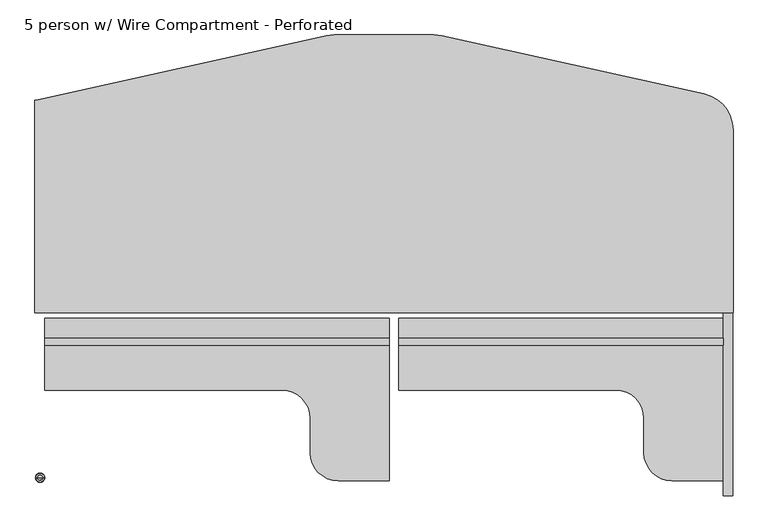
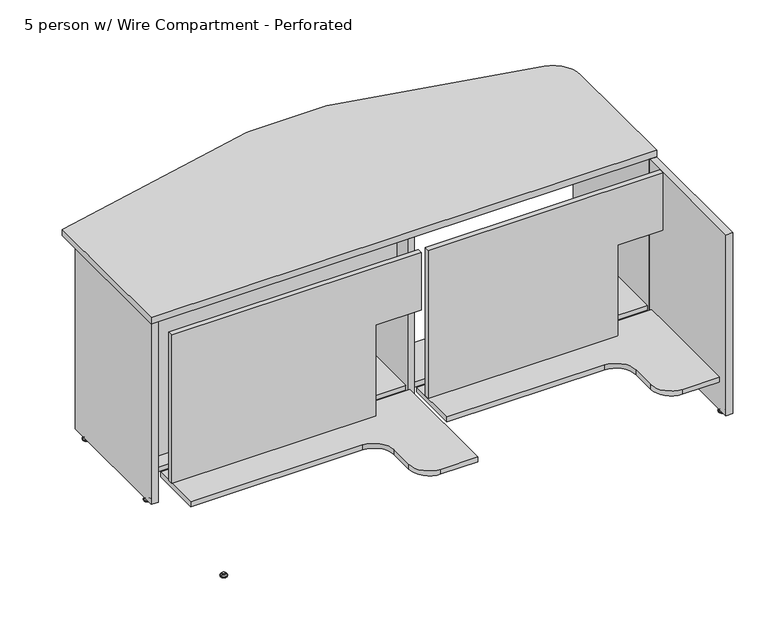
"""IFC4 building model written with IfcOpenShell, lengths in millimetres: furniture geometry, Nova Solutions - Collaboration Table - Boat_4-6 person : 5 person w/ Wire Compartment - Perforated."""

from ifc_helpers import new_model, si_unit, point, frame, frame_2d, origin, place, context, project, spatial, polyline, circle_curve, ellipse_curve, trimmed, segment, composite_curve, outline, extrude, source, transform, mapped, element, save
from ifc_brep_helpers import plane_surface, cylinder_surface, revolved_surface, advanced_brep


def furniture_5_person_w_wire_compartment_perforated_3ae8978b(model_context):
    return source(origin(), model_context, "Body", "SolidModel", [
        extrude(outline(composite_curve([segment(polyline([(897.15, 457.2625), (897.15, 14.1), (12.85, 14.1), (12.85, 210.4), (604.95, 210.4)]), True, "CONTINUOUS"), segment(trimmed(circle_curve(frame_2d((604.95, 286.6)), 76.2), [point((604.95, 210.4))], [point((681.15, 286.6))], True, "CARTESIAN"), True, "CONTINUOUS"), segment(polyline([(681.15, 286.6), (681.15, 381.0625)]), True, "CONTINUOUS"), segment(trimmed(circle_curve(frame_2d((757.35, 381.0625)), 76.2), [point((681.15, 381.0625))], [point((757.35, 457.2625))], False, "CARTESIAN"), True, "CONTINUOUS"), segment(polyline([(757.35, 457.2625), (897.15, 457.2625)]), True, "CONTINUOUS")], self_intersect=False)), frame((0.0, 0.0, 126.3), z_axis=(0.0, 0.0, 1.0), x_axis=(1.0, 0.0, 0.0)), (0.0, 0.0, 1.0), 19.2),
        advanced_brep(
        [(916.6776506, 448.9859375, 11.1125), (910.0, 448.9859375, 11.1125), (903.3223494, 448.9859375, 11.1125), (916.6776506, 448.9859375, 9.525), (903.3223494, 448.9859375, 9.525), (921.8855135, 448.9859375, 4.7748687), (898.1144865, 448.9859375, 4.7748687), (922.7466506, 448.9859375, 3.989419), (897.2533494, 448.9859375, 3.989419), (922.7466506, 448.9859375, 3.175), (897.2533494, 448.9859375, 3.175), (921.8959119, 448.9859375, 0.0), (898.1040881, 448.9859375, 0.0), (910.0, 448.9859375, 0.0)],
        [
            (0, 1),
            (1, 2),
            (2, 0, circle_curve(frame((910.0, 448.9859375, 11.1125), z_axis=(0.0, 0.0, 1.0), x_axis=(-1.0, 0.0, 0.0)), 6.6776506)),
            (0, 2, circle_curve(frame((910.0, 448.9859375, 11.1125), z_axis=(0.0, 0.0, 1.0), x_axis=(-1.0, 0.0, 0.0)), 6.6776506)),
            (3, 0),
            (2, 4),
            (4, 3, circle_curve(frame((910.0, 448.9859375, 9.525), z_axis=(0.0, 0.0, 1.0), x_axis=(-1.0, 0.0, 0.0)), 6.6776506)),
            (3, 4, circle_curve(frame((910.0, 448.9859375, 9.525), z_axis=(0.0, 0.0, 1.0), x_axis=(-1.0, 0.0, 0.0)), 6.6776506)),
            (5, 3, circle_curve(frame((922.9320627, 448.9859375, 11.1521822), z_axis=(0.0, 1.0, 0.0), x_axis=(-1.0, 0.0, 0.0)), 6.462615)),
            (4, 6, circle_curve(frame((897.0679373, 448.9859375, 11.1521822), z_axis=(0.0, 1.0, 0.0), x_axis=(1.0, 0.0, 0.0)), 6.462615)),
            (6, 5, circle_curve(frame((910.0, 448.9859375, 4.7748687), z_axis=(0.0, 0.0, 1.0), x_axis=(-1.0, 0.0, 0.0)), 11.8855135)),
            (5, 6, circle_curve(frame((910.0, 448.9859375, 4.7748687), z_axis=(0.0, 0.0, 1.0), x_axis=(-1.0, 0.0, 0.0)), 11.8855135)),
            (7, 5, circle_curve(frame((921.7124632, 448.9859375, 3.7203591), z_axis=(0.0, -1.0, 0.0), x_axis=(-1.0, 0.0, 0.0)), 1.0686145)),
            (6, 8, circle_curve(frame((898.2875368, 448.9859375, 3.7203591), z_axis=(0.0, -1.0, 0.0), x_axis=(1.0, 0.0, 0.0)), 1.0686145)),
            (8, 7, circle_curve(frame((910.0, 448.9859375, 3.989419), z_axis=(0.0, 0.0, 1.0), x_axis=(-1.0, 0.0, 0.0)), 12.7466506)),
            (7, 8, circle_curve(frame((910.0, 448.9859375, 3.989419), z_axis=(0.0, 0.0, 1.0), x_axis=(-1.0, 0.0, 0.0)), 12.7466506)),
            (9, 7),
            (8, 10),
            (10, 9, circle_curve(frame((910.0, 448.9859375, 3.175), z_axis=(0.0, 0.0, 1.0), x_axis=(-1.0, 0.0, 0.0)), 12.7466506)),
            (9, 10, circle_curve(frame((910.0, 448.9859375, 3.175), z_axis=(0.0, 0.0, 1.0), x_axis=(-1.0, 0.0, 0.0)), 12.7466506)),
            (11, 9),
            (10, 12),
            (12, 11, circle_curve(frame((910.0, 448.9859375, 0.0), z_axis=(0.0, 0.0, 1.0), x_axis=(-1.0, 0.0, 0.0)), 11.8959119)),
            (11, 12, circle_curve(frame((910.0, 448.9859375, 0.0), z_axis=(0.0, 0.0, 1.0), x_axis=(-1.0, 0.0, 0.0)), 11.8959119)),
            (13, 11),
            (12, 13),
        ],
        [
            plane_surface(frame((910.0, 448.9859375, 11.1125), z_axis=(0.0, 0.0, 1.0), x_axis=(-1.0, 0.0, 0.0))),
            cylinder_surface(frame((910.0, 448.9859375, 43.2095994), z_axis=(0.0, 0.0, -1.0), x_axis=(-1.0, 0.0, 0.0)), 6.6776506),
            revolved_surface(trimmed(ellipse_curve(frame((897.0679373, 448.9859375, 11.1521822), z_axis=(0.0, 1.0, 0.0), x_axis=(1.0, 0.0, 0.0)), 6.462615, 6.462615), [point((903.3223494, 448.9859375, 9.525))], [point((898.1144865, 448.9859375, 4.7748687))], True, "CARTESIAN"), (910.0, 448.9859375, 43.2095994), (0.0, 0.0, -1.0)),
            revolved_surface(trimmed(ellipse_curve(frame((898.2875368, 448.9859375, 3.7203591), z_axis=(0.0, -1.0, 0.0), x_axis=(1.0, 0.0, 0.0)), 1.0686145, 1.0686145), [point((898.1144865, 448.9859375, 4.7748687))], [point((897.2533494, 448.9859375, 3.989419))], True, "CARTESIAN"), (910.0, 448.9859375, 43.2095994), (0.0, 0.0, -1.0)),
            cylinder_surface(frame((910.0, 448.9859375, 43.2095994), z_axis=(0.0, 0.0, -1.0), x_axis=(-1.0, 0.0, 0.0)), 12.7466506),
            revolved_surface(polyline([(897.2533494, 448.9859375, 3.175), (898.1040881, 448.9859375, 0.0)]), (910.0, 448.9859375, 43.2095994), (0.0, 0.0, -1.0)),
            plane_surface(frame((910.0, 448.9859375, 0.0), z_axis=(0.0, 0.0, -1.0), x_axis=(-1.0, 0.0, 0.0))),
        ],
        [
            (0, [[1, 2, 3]]),
            (0, [[-2, -1, 4]]),
            (1, [[5, -3, 6, 7]]),
            (1, [[-6, -4, -5, 8]]),
            (2, [[9, -7, 10, 11]]),
            (2, [[-10, -8, -9, 12]]),
            (3, [[13, -11, 14, 15]]),
            (3, [[-14, -12, -13, 16]]),
            (4, [[17, -15, 18, 19]]),
            (4, [[-18, -16, -17, 20]]),
            (5, [[21, -19, 22, 23]]),
            (5, [[-22, -20, -21, 24]]),
            (6, [[25, -23, 26]]),
            (6, [[-26, -24, -25]]),
        ],
    ),
        advanced_brep(
        [(916.6776506, 50.4140625, 11.1125), (910.0, 50.4140625, 11.1125), (903.3223494, 50.4140625, 11.1125), (916.6776506, 50.4140625, 9.525), (903.3223494, 50.4140625, 9.525), (921.8855135, 50.4140625, 4.7748687), (898.1144865, 50.4140625, 4.7748687), (922.7466506, 50.4140625, 3.989419), (897.2533494, 50.4140625, 3.989419), (922.7466506, 50.4140625, 3.175), (897.2533494, 50.4140625, 3.175), (921.8959119, 50.4140625, 0.0), (898.1040881, 50.4140625, 0.0), (910.0, 50.4140625, 0.0)],
        [
            (0, 1),
            (1, 2),
            (2, 0, circle_curve(frame((910.0, 50.4140625, 11.1125), z_axis=(0.0, 0.0, 1.0), x_axis=(-1.0, 0.0, 0.0)), 6.6776506)),
            (0, 2, circle_curve(frame((910.0, 50.4140625, 11.1125), z_axis=(0.0, 0.0, 1.0), x_axis=(-1.0, 0.0, 0.0)), 6.6776506)),
            (3, 0),
            (2, 4),
            (4, 3, circle_curve(frame((910.0, 50.4140625, 9.525), z_axis=(0.0, 0.0, 1.0), x_axis=(-1.0, 0.0, 0.0)), 6.6776506)),
            (3, 4, circle_curve(frame((910.0, 50.4140625, 9.525), z_axis=(0.0, 0.0, 1.0), x_axis=(-1.0, 0.0, 0.0)), 6.6776506)),
            (5, 3, circle_curve(frame((922.9320627, 50.4140625, 11.1521822), z_axis=(0.0, 1.0, 0.0), x_axis=(-1.0, 0.0, 0.0)), 6.462615)),
            (4, 6, circle_curve(frame((897.0679373, 50.4140625, 11.1521822), z_axis=(0.0, 1.0, 0.0), x_axis=(1.0, 0.0, 0.0)), 6.462615)),
            (6, 5, circle_curve(frame((910.0, 50.4140625, 4.7748687), z_axis=(0.0, 0.0, 1.0), x_axis=(-1.0, 0.0, 0.0)), 11.8855135)),
            (5, 6, circle_curve(frame((910.0, 50.4140625, 4.7748687), z_axis=(0.0, 0.0, 1.0), x_axis=(-1.0, 0.0, 0.0)), 11.8855135)),
            (7, 5, circle_curve(frame((921.7124632, 50.4140625, 3.7203591), z_axis=(0.0, -1.0, 0.0), x_axis=(-1.0, 0.0, 0.0)), 1.0686145)),
            (6, 8, circle_curve(frame((898.2875368, 50.4140625, 3.7203591), z_axis=(0.0, -1.0, 0.0), x_axis=(1.0, 0.0, 0.0)), 1.0686145)),
            (8, 7, circle_curve(frame((910.0, 50.4140625, 3.989419), z_axis=(0.0, 0.0, 1.0), x_axis=(-1.0, 0.0, 0.0)), 12.7466506)),
            (7, 8, circle_curve(frame((910.0, 50.4140625, 3.989419), z_axis=(0.0, 0.0, 1.0), x_axis=(-1.0, 0.0, 0.0)), 12.7466506)),
            (9, 7),
            (8, 10),
            (10, 9, circle_curve(frame((910.0, 50.4140625, 3.175), z_axis=(0.0, 0.0, 1.0), x_axis=(-1.0, 0.0, 0.0)), 12.7466506)),
            (9, 10, circle_curve(frame((910.0, 50.4140625, 3.175), z_axis=(0.0, 0.0, 1.0), x_axis=(-1.0, 0.0, 0.0)), 12.7466506)),
            (11, 9),
            (10, 12),
            (12, 11, circle_curve(frame((910.0, 50.4140625, 0.0), z_axis=(0.0, 0.0, 1.0), x_axis=(-1.0, 0.0, 0.0)), 11.8959119)),
            (11, 12, circle_curve(frame((910.0, 50.4140625, 0.0), z_axis=(0.0, 0.0, 1.0), x_axis=(-1.0, 0.0, 0.0)), 11.8959119)),
            (13, 11),
            (12, 13),
        ],
        [
            plane_surface(frame((910.0, 50.4140625, 11.1125), z_axis=(0.0, 0.0, 1.0), x_axis=(-1.0, 0.0, 0.0))),
            cylinder_surface(frame((910.0, 50.4140625, 43.2095994), z_axis=(0.0, 0.0, -1.0), x_axis=(-1.0, 0.0, 0.0)), 6.6776506),
            revolved_surface(trimmed(ellipse_curve(frame((897.0679373, 50.4140625, 11.1521822), z_axis=(0.0, 1.0, 0.0), x_axis=(1.0, 0.0, 0.0)), 6.462615, 6.462615), [point((903.3223494, 50.4140625, 9.525))], [point((898.1144865, 50.4140625, 4.7748687))], True, "CARTESIAN"), (910.0, 50.4140625, 43.2095994), (0.0, 0.0, -1.0)),
            revolved_surface(trimmed(ellipse_curve(frame((898.2875368, 50.4140625, 3.7203591), z_axis=(0.0, -1.0, 0.0), x_axis=(1.0, 0.0, 0.0)), 1.0686145, 1.0686145), [point((898.1144865, 50.4140625, 4.7748687))], [point((897.2533494, 50.4140625, 3.989419))], True, "CARTESIAN"), (910.0, 50.4140625, 43.2095994), (0.0, 0.0, -1.0)),
            cylinder_surface(frame((910.0, 50.4140625, 43.2095994), z_axis=(0.0, 0.0, -1.0), x_axis=(-1.0, 0.0, 0.0)), 12.7466506),
            revolved_surface(polyline([(897.2533494, 50.4140625, 3.175), (898.1040881, 50.4140625, 0.0)]), (910.0, 50.4140625, 43.2095994), (0.0, 0.0, -1.0)),
            plane_surface(frame((910.0, 50.4140625, 0.0), z_axis=(0.0, 0.0, -1.0), x_axis=(-1.0, 0.0, 0.0))),
        ],
        [
            (0, [[1, 2, 3]]),
            (0, [[-2, -1, 4]]),
            (1, [[5, -3, 6, 7]]),
            (1, [[-6, -4, -5, 8]]),
            (2, [[9, -7, 10, 11]]),
            (2, [[-10, -8, -9, 12]]),
            (3, [[13, -11, 14, 15]]),
            (3, [[-14, -12, -13, 16]]),
            (4, [[17, -15, 18, 19]]),
            (4, [[-18, -16, -17, 20]]),
            (5, [[21, -19, 22, 23]]),
            (5, [[-22, -20, -21, 24]]),
            (6, [[25, -23, 26]]),
            (6, [[-26, -24, -25]]),
        ],
    ),
        extrude(outline(polyline([(922.85, 1.4), (897.15, 1.4), (897.15, 498.0), (922.85, 498.0), (922.85, 1.4)])), frame((0.0, 0.0, 15.6), z_axis=(0.0, 0.0, 1.0), x_axis=(1.0, 0.0, 0.0)), (0.0, 0.0, 1.0), 720.7),
        extrude(outline(polyline([(145.5, -952.15), (145.5, -183.85), (507.4, -183.85), (507.4, -12.85), (736.3, -12.85), (736.3, -952.15), (145.5, -952.15)])), frame((0.0, 69.4, 0.0), z_axis=(0.0, 1.0, 0.0), x_axis=(0.0, 0.0, 1.0)), (0.0, 0.0, 1.0), 19.2),
        extrude(outline(composite_curve([segment(polyline([(-952.15, 14.1), (-952.15, 210.4), (-305.05, 210.4)]), True, "CONTINUOUS"), segment(trimmed(circle_curve(frame_2d((-305.05, 286.6)), 76.2), [point((-305.05, 210.4))], [point((-228.85, 286.6))], True, "CARTESIAN"), True, "CONTINUOUS"), segment(polyline([(-228.85, 286.6), (-228.85, 381.0625)]), True, "CONTINUOUS"), segment(trimmed(circle_curve(frame_2d((-152.65, 381.0625)), 76.2), [point((-228.85, 381.0625))], [point((-152.65, 457.2625))], False, "CARTESIAN"), True, "CONTINUOUS"), segment(polyline([(-152.65, 457.2625), (-12.85, 457.2625), (-12.85, 14.1), (-952.15, 14.1)]), True, "CONTINUOUS")], self_intersect=False)), frame((0.0, 0.0, 126.3), z_axis=(0.0, 0.0, 1.0), x_axis=(1.0, 0.0, 0.0)), (0.0, 0.0, 1.0), 19.2),
        advanced_brep(
        [(-971.6776506, 448.9859375, 11.1125), (-958.3223494, 448.9859375, 11.1125), (-965.0, 448.9859375, 11.1125), (-971.6776506, 448.9859375, 9.525), (-958.3223494, 448.9859375, 9.525), (-976.8855135, 448.9859375, 4.7748687), (-953.1144865, 448.9859375, 4.7748687), (-977.7466506, 448.9859375, 3.989419), (-952.2533494, 448.9859375, 3.989419), (-977.7466506, 448.9859375, 3.175), (-952.2533494, 448.9859375, 3.175), (-976.8959119, 448.9859375, 0.0), (-953.1040881, 448.9859375, 0.0), (-965.0, 448.9859375, 0.0)],
        [
            (0, 1, circle_curve(frame((-965.0, 448.9859375, 11.1125), z_axis=(0.0, 0.0, 1.0), x_axis=(1.0, 0.0, 0.0)), 6.6776506)),
            (1, 2),
            (2, 0),
            (1, 0, circle_curve(frame((-965.0, 448.9859375, 11.1125), z_axis=(0.0, 0.0, 1.0), x_axis=(1.0, 0.0, 0.0)), 6.6776506)),
            (3, 4, circle_curve(frame((-965.0, 448.9859375, 9.525), z_axis=(0.0, 0.0, 1.0), x_axis=(1.0, 0.0, 0.0)), 6.6776506)),
            (4, 1),
            (0, 3),
            (4, 3, circle_curve(frame((-965.0, 448.9859375, 9.525), z_axis=(0.0, 0.0, 1.0), x_axis=(1.0, 0.0, 0.0)), 6.6776506)),
            (5, 6, circle_curve(frame((-965.0, 448.9859375, 4.7748687), z_axis=(0.0, 0.0, 1.0), x_axis=(1.0, 0.0, 0.0)), 11.8855135)),
            (6, 4, circle_curve(frame((-952.0679373, 448.9859375, 11.1521822), z_axis=(0.0, 1.0, 0.0), x_axis=(-1.0, 0.0, 0.0)), 6.462615)),
            (3, 5, circle_curve(frame((-977.9320627, 448.9859375, 11.1521822), z_axis=(0.0, 1.0, 0.0), x_axis=(1.0, 0.0, 0.0)), 6.462615)),
            (6, 5, circle_curve(frame((-965.0, 448.9859375, 4.7748687), z_axis=(0.0, 0.0, 1.0), x_axis=(1.0, 0.0, 0.0)), 11.8855135)),
            (7, 8, circle_curve(frame((-965.0, 448.9859375, 3.989419), z_axis=(0.0, 0.0, 1.0), x_axis=(1.0, 0.0, 0.0)), 12.7466506)),
            (8, 6, circle_curve(frame((-953.2875368, 448.9859375, 3.7203591), z_axis=(0.0, -1.0, 0.0), x_axis=(-1.0, 0.0, 0.0)), 1.0686145)),
            (5, 7, circle_curve(frame((-976.7124632, 448.9859375, 3.7203591), z_axis=(0.0, -1.0, 0.0), x_axis=(1.0, 0.0, 0.0)), 1.0686145)),
            (8, 7, circle_curve(frame((-965.0, 448.9859375, 3.989419), z_axis=(0.0, 0.0, 1.0), x_axis=(1.0, 0.0, 0.0)), 12.7466506)),
            (9, 10, circle_curve(frame((-965.0, 448.9859375, 3.175), z_axis=(0.0, 0.0, 1.0), x_axis=(1.0, 0.0, 0.0)), 12.7466506)),
            (10, 8),
            (7, 9),
            (10, 9, circle_curve(frame((-965.0, 448.9859375, 3.175), z_axis=(0.0, 0.0, 1.0), x_axis=(1.0, 0.0, 0.0)), 12.7466506)),
            (11, 12, circle_curve(frame((-965.0, 448.9859375, 0.0), z_axis=(0.0, 0.0, 1.0), x_axis=(1.0, 0.0, 0.0)), 11.8959119)),
            (12, 10),
            (9, 11),
            (12, 11, circle_curve(frame((-965.0, 448.9859375, 0.0), z_axis=(0.0, 0.0, 1.0), x_axis=(1.0, 0.0, 0.0)), 11.8959119)),
            (13, 12),
            (11, 13),
        ],
        [
            plane_surface(frame((-965.0, 448.9859375, 11.1125), z_axis=(0.0, 0.0, 1.0), x_axis=(1.0, 0.0, 0.0))),
            cylinder_surface(frame((-965.0, 448.9859375, 43.2095994), z_axis=(0.0, 0.0, -1.0), x_axis=(1.0, 0.0, 0.0)), 6.6776506),
            revolved_surface(trimmed(ellipse_curve(frame((-952.0679373, 448.9859375, 11.1521822), z_axis=(0.0, -1.0, 0.0), x_axis=(-1.0, 0.0, 0.0)), 6.462615, 6.462615), [point((-958.3223494, 448.9859375, 9.525))], [point((-953.1144865, 448.9859375, 4.7748687))], True, "CARTESIAN"), (-965.0, 448.9859375, 43.2095994), (0.0, 0.0, -1.0)),
            revolved_surface(trimmed(ellipse_curve(frame((-953.2875368, 448.9859375, 3.7203591), z_axis=(0.0, 1.0, 0.0), x_axis=(-1.0, 0.0, 0.0)), 1.0686145, 1.0686145), [point((-953.1144865, 448.9859375, 4.7748687))], [point((-952.2533494, 448.9859375, 3.989419))], True, "CARTESIAN"), (-965.0, 448.9859375, 43.2095994), (0.0, 0.0, -1.0)),
            cylinder_surface(frame((-965.0, 448.9859375, 43.2095994), z_axis=(0.0, 0.0, -1.0), x_axis=(1.0, 0.0, 0.0)), 12.7466506),
            revolved_surface(polyline([(-952.2533494, 448.9859375, 3.175), (-953.1040881, 448.9859375, 0.0)]), (-965.0, 448.9859375, 43.2095994), (0.0, 0.0, -1.0)),
            plane_surface(frame((-965.0, 448.9859375, 0.0), z_axis=(0.0, 0.0, -1.0), x_axis=(1.0, 0.0, 0.0))),
        ],
        [
            (0, [[1, 2, 3]]),
            (0, [[4, -3, -2]]),
            (1, [[5, 6, -1, 7]]),
            (1, [[8, -7, -4, -6]]),
            (2, [[9, 10, -5, 11]]),
            (2, [[12, -11, -8, -10]]),
            (3, [[13, 14, -9, 15]]),
            (3, [[16, -15, -12, -14]]),
            (4, [[17, 18, -13, 19]]),
            (4, [[20, -19, -16, -18]]),
            (5, [[21, 22, -17, 23]]),
            (5, [[24, -23, -20, -22]]),
            (6, [[25, -21, 26]]),
            (6, [[-26, -24, -25]]),
        ],
    ),
        advanced_brep(
        [(-971.6776506, 50.4140625, 11.1125), (-958.3223494, 50.4140625, 11.1125), (-965.0, 50.4140625, 11.1125), (-971.6776506, 50.4140625, 9.525), (-958.3223494, 50.4140625, 9.525), (-976.8855135, 50.4140625, 4.7748687), (-953.1144865, 50.4140625, 4.7748687), (-977.7466506, 50.4140625, 3.989419), (-952.2533494, 50.4140625, 3.989419), (-977.7466506, 50.4140625, 3.175), (-952.2533494, 50.4140625, 3.175), (-976.8959119, 50.4140625, 0.0), (-953.1040881, 50.4140625, 0.0), (-965.0, 50.4140625, 0.0)],
        [
            (0, 1, circle_curve(frame((-965.0, 50.4140625, 11.1125), z_axis=(0.0, 0.0, 1.0), x_axis=(1.0, 0.0, 0.0)), 6.6776506)),
            (1, 2),
            (2, 0),
            (1, 0, circle_curve(frame((-965.0, 50.4140625, 11.1125), z_axis=(0.0, 0.0, 1.0), x_axis=(1.0, 0.0, 0.0)), 6.6776506)),
            (3, 4, circle_curve(frame((-965.0, 50.4140625, 9.525), z_axis=(0.0, 0.0, 1.0), x_axis=(1.0, 0.0, 0.0)), 6.6776506)),
            (4, 1),
            (0, 3),
            (4, 3, circle_curve(frame((-965.0, 50.4140625, 9.525), z_axis=(0.0, 0.0, 1.0), x_axis=(1.0, 0.0, 0.0)), 6.6776506)),
            (5, 6, circle_curve(frame((-965.0, 50.4140625, 4.7748687), z_axis=(0.0, 0.0, 1.0), x_axis=(1.0, 0.0, 0.0)), 11.8855135)),
            (6, 4, circle_curve(frame((-952.0679373, 50.4140625, 11.1521822), z_axis=(0.0, 1.0, 0.0), x_axis=(-1.0, 0.0, 0.0)), 6.462615)),
            (3, 5, circle_curve(frame((-977.9320627, 50.4140625, 11.1521822), z_axis=(0.0, 1.0, 0.0), x_axis=(1.0, 0.0, 0.0)), 6.462615)),
            (6, 5, circle_curve(frame((-965.0, 50.4140625, 4.7748687), z_axis=(0.0, 0.0, 1.0), x_axis=(1.0, 0.0, 0.0)), 11.8855135)),
            (7, 8, circle_curve(frame((-965.0, 50.4140625, 3.989419), z_axis=(0.0, 0.0, 1.0), x_axis=(1.0, 0.0, 0.0)), 12.7466506)),
            (8, 6, circle_curve(frame((-953.2875368, 50.4140625, 3.7203591), z_axis=(0.0, -1.0, 0.0), x_axis=(-1.0, 0.0, 0.0)), 1.0686145)),
            (5, 7, circle_curve(frame((-976.7124632, 50.4140625, 3.7203591), z_axis=(0.0, -1.0, 0.0), x_axis=(1.0, 0.0, 0.0)), 1.0686145)),
            (8, 7, circle_curve(frame((-965.0, 50.4140625, 3.989419), z_axis=(0.0, 0.0, 1.0), x_axis=(1.0, 0.0, 0.0)), 12.7466506)),
            (9, 10, circle_curve(frame((-965.0, 50.4140625, 3.175), z_axis=(0.0, 0.0, 1.0), x_axis=(1.0, 0.0, 0.0)), 12.7466506)),
            (10, 8),
            (7, 9),
            (10, 9, circle_curve(frame((-965.0, 50.4140625, 3.175), z_axis=(0.0, 0.0, 1.0), x_axis=(1.0, 0.0, 0.0)), 12.7466506)),
            (11, 12, circle_curve(frame((-965.0, 50.4140625, 0.0), z_axis=(0.0, 0.0, 1.0), x_axis=(1.0, 0.0, 0.0)), 11.8959119)),
            (12, 10),
            (9, 11),
            (12, 11, circle_curve(frame((-965.0, 50.4140625, 0.0), z_axis=(0.0, 0.0, 1.0), x_axis=(1.0, 0.0, 0.0)), 11.8959119)),
            (13, 12),
            (11, 13),
        ],
        [
            plane_surface(frame((-965.0, 50.4140625, 11.1125), z_axis=(0.0, 0.0, 1.0), x_axis=(1.0, 0.0, 0.0))),
            cylinder_surface(frame((-965.0, 50.4140625, 43.2095994), z_axis=(0.0, 0.0, -1.0), x_axis=(1.0, 0.0, 0.0)), 6.6776506),
            revolved_surface(trimmed(ellipse_curve(frame((-952.0679373, 50.4140625, 11.1521822), z_axis=(0.0, -1.0, 0.0), x_axis=(-1.0, 0.0, 0.0)), 6.462615, 6.462615), [point((-958.3223494, 50.4140625, 9.525))], [point((-953.1144865, 50.4140625, 4.7748687))], True, "CARTESIAN"), (-965.0, 50.4140625, 43.2095994), (0.0, 0.0, -1.0)),
            revolved_surface(trimmed(ellipse_curve(frame((-953.2875368, 50.4140625, 3.7203591), z_axis=(0.0, 1.0, 0.0), x_axis=(-1.0, 0.0, 0.0)), 1.0686145, 1.0686145), [point((-953.1144865, 50.4140625, 4.7748687))], [point((-952.2533494, 50.4140625, 3.989419))], True, "CARTESIAN"), (-965.0, 50.4140625, 43.2095994), (0.0, 0.0, -1.0)),
            cylinder_surface(frame((-965.0, 50.4140625, 43.2095994), z_axis=(0.0, 0.0, -1.0), x_axis=(1.0, 0.0, 0.0)), 12.7466506),
            revolved_surface(polyline([(-952.2533494, 50.4140625, 3.175), (-953.1040881, 50.4140625, 0.0)]), (-965.0, 50.4140625, 43.2095994), (0.0, 0.0, -1.0)),
            plane_surface(frame((-965.0, 50.4140625, 0.0), z_axis=(0.0, 0.0, -1.0), x_axis=(1.0, 0.0, 0.0))),
        ],
        [
            (0, [[1, 2, 3]]),
            (0, [[4, -3, -2]]),
            (1, [[5, 6, -1, 7]]),
            (1, [[8, -7, -4, -6]]),
            (2, [[9, 10, -5, 11]]),
            (2, [[12, -11, -8, -10]]),
            (3, [[13, 14, -9, 15]]),
            (3, [[16, -15, -12, -14]]),
            (4, [[17, 18, -13, 19]]),
            (4, [[20, -19, -16, -18]]),
            (5, [[21, 22, -17, 23]]),
            (5, [[24, -23, -20, -22]]),
            (6, [[25, -21, 26]]),
            (6, [[-26, -24, -25]]),
        ],
    ),
        extrude(outline(polyline([(-977.85, 1.4), (-977.85, 498.0), (-952.15, 498.0), (-952.15, 1.4), (-977.85, 1.4)])), frame((0.0, 0.0, 15.6), z_axis=(0.0, 0.0, 1.0), x_axis=(1.0, 0.0, 0.0)), (0.0, 0.0, 1.0), 720.7),
        advanced_brep(
        [(6.6776506, 631.3859375, 11.1125), (0.0, 631.3859375, 11.1125), (-6.6776506, 631.3859375, 11.1125), (6.6776506, 631.3859375, 9.525), (-6.6776506, 631.3859375, 9.525), (11.8855135, 631.3859375, 4.7748687), (-11.8855135, 631.3859375, 4.7748687), (12.7466506, 631.3859375, 3.989419), (-12.7466506, 631.3859375, 3.989419), (12.7466506, 631.3859375, 3.175), (-12.7466506, 631.3859375, 3.175), (11.8959119, 631.3859375, 0.0), (-11.8959119, 631.3859375, 0.0), (0.0, 631.3859375, 0.0)],
        [
            (0, 1),
            (1, 2),
            (2, 0, circle_curve(frame((0.0, 631.3859375, 11.1125), z_axis=(0.0, 0.0, 1.0), x_axis=(-1.0, 0.0, 0.0)), 6.6776506)),
            (0, 2, circle_curve(frame((0.0, 631.3859375, 11.1125), z_axis=(0.0, 0.0, 1.0), x_axis=(-1.0, 0.0, 0.0)), 6.6776506)),
            (3, 0),
            (2, 4),
            (4, 3, circle_curve(frame((0.0, 631.3859375, 9.525), z_axis=(0.0, 0.0, 1.0), x_axis=(-1.0, 0.0, 0.0)), 6.6776506)),
            (3, 4, circle_curve(frame((0.0, 631.3859375, 9.525), z_axis=(0.0, 0.0, 1.0), x_axis=(-1.0, 0.0, 0.0)), 6.6776506)),
            (5, 3, circle_curve(frame((12.9320627, 631.3859375, 11.1521822), z_axis=(0.0, 1.0, 0.0), x_axis=(-1.0, 0.0, 0.0)), 6.462615)),
            (4, 6, circle_curve(frame((-12.9320627, 631.3859375, 11.1521822), z_axis=(0.0, 1.0, 0.0), x_axis=(1.0, 0.0, 0.0)), 6.462615)),
            (6, 5, circle_curve(frame((0.0, 631.3859375, 4.7748687), z_axis=(0.0, 0.0, 1.0), x_axis=(-1.0, 0.0, 0.0)), 11.8855135)),
            (5, 6, circle_curve(frame((0.0, 631.3859375, 4.7748687), z_axis=(0.0, 0.0, 1.0), x_axis=(-1.0, 0.0, 0.0)), 11.8855135)),
            (7, 5, circle_curve(frame((11.7124632, 631.3859375, 3.7203591), z_axis=(0.0, -1.0, 0.0), x_axis=(-1.0, 0.0, 0.0)), 1.0686145)),
            (6, 8, circle_curve(frame((-11.7124632, 631.3859375, 3.7203591), z_axis=(0.0, -1.0, 0.0), x_axis=(1.0, 0.0, 0.0)), 1.0686145)),
            (8, 7, circle_curve(frame((0.0, 631.3859375, 3.989419), z_axis=(0.0, 0.0, 1.0), x_axis=(-1.0, 0.0, 0.0)), 12.7466506)),
            (7, 8, circle_curve(frame((0.0, 631.3859375, 3.989419), z_axis=(0.0, 0.0, 1.0), x_axis=(-1.0, 0.0, 0.0)), 12.7466506)),
            (9, 7),
            (8, 10),
            (10, 9, circle_curve(frame((0.0, 631.3859375, 3.175), z_axis=(0.0, 0.0, 1.0), x_axis=(-1.0, 0.0, 0.0)), 12.7466506)),
            (9, 10, circle_curve(frame((0.0, 631.3859375, 3.175), z_axis=(0.0, 0.0, 1.0), x_axis=(-1.0, 0.0, 0.0)), 12.7466506)),
            (11, 9),
            (10, 12),
            (12, 11, circle_curve(frame((0.0, 631.3859375, 0.0), z_axis=(0.0, 0.0, 1.0), x_axis=(-1.0, 0.0, 0.0)), 11.8959119)),
            (11, 12, circle_curve(frame((0.0, 631.3859375, 0.0), z_axis=(0.0, 0.0, 1.0), x_axis=(-1.0, 0.0, 0.0)), 11.8959119)),
            (13, 11),
            (12, 13),
        ],
        [
            plane_surface(frame((0.0, 631.3859375, 11.1125), z_axis=(0.0, 0.0, 1.0), x_axis=(-1.0, 0.0, 0.0))),
            cylinder_surface(frame((0.0, 631.3859375, 43.2095994), z_axis=(0.0, 0.0, -1.0), x_axis=(-1.0, 0.0, 0.0)), 6.6776506),
            revolved_surface(trimmed(ellipse_curve(frame((-12.9320627, 631.3859375, 11.1521822), z_axis=(0.0, 1.0, 0.0), x_axis=(1.0, 0.0, 0.0)), 6.462615, 6.462615), [point((-6.6776506, 631.3859375, 9.525))], [point((-11.8855135, 631.3859375, 4.7748687))], True, "CARTESIAN"), (0.0, 631.3859375, 43.2095994), (0.0, 0.0, -1.0)),
            revolved_surface(trimmed(ellipse_curve(frame((-11.7124632, 631.3859375, 3.7203591), z_axis=(0.0, -1.0, 0.0), x_axis=(1.0, 0.0, 0.0)), 1.0686145, 1.0686145), [point((-11.8855135, 631.3859375, 4.7748687))], [point((-12.7466506, 631.3859375, 3.989419))], True, "CARTESIAN"), (0.0, 631.3859375, 43.2095994), (0.0, 0.0, -1.0)),
            cylinder_surface(frame((0.0, 631.3859375, 43.2095994), z_axis=(0.0, 0.0, -1.0), x_axis=(-1.0, 0.0, 0.0)), 12.7466506),
            revolved_surface(polyline([(-12.7466506, 631.3859375, 3.175), (-11.8959119, 631.3859375, 0.0)]), (0.0, 631.3859375, 43.2095994), (0.0, 0.0, -1.0)),
            plane_surface(frame((0.0, 631.3859375, 0.0), z_axis=(0.0, 0.0, -1.0), x_axis=(-1.0, 0.0, 0.0))),
        ],
        [
            (0, [[1, 2, 3]]),
            (0, [[-2, -1, 4]]),
            (1, [[5, -3, 6, 7]]),
            (1, [[-6, -4, -5, 8]]),
            (2, [[9, -7, 10, 11]]),
            (2, [[-10, -8, -9, 12]]),
            (3, [[13, -11, 14, 15]]),
            (3, [[-14, -12, -13, 16]]),
            (4, [[17, -15, 18, 19]]),
            (4, [[-18, -16, -17, 20]]),
            (5, [[21, -19, 22, 23]]),
            (5, [[-22, -20, -21, 24]]),
            (6, [[25, -23, 26]]),
            (6, [[-26, -24, -25]]),
        ],
    ),
        advanced_brep(
        [(6.6776506, 50.4140625, 11.1125), (0.0, 50.4140625, 11.1125), (-6.6776506, 50.4140625, 11.1125), (6.6776506, 50.4140625, 9.525), (-6.6776506, 50.4140625, 9.525), (11.8855135, 50.4140625, 4.7748687), (-11.8855135, 50.4140625, 4.7748687), (12.7466506, 50.4140625, 3.989419), (-12.7466506, 50.4140625, 3.989419), (12.7466506, 50.4140625, 3.175), (-12.7466506, 50.4140625, 3.175), (11.8959119, 50.4140625, 0.0), (-11.8959119, 50.4140625, 0.0), (0.0, 50.4140625, 0.0)],
        [
            (0, 1),
            (1, 2),
            (2, 0, circle_curve(frame((0.0, 50.4140625, 11.1125), z_axis=(0.0, 0.0, 1.0), x_axis=(-1.0, 0.0, 0.0)), 6.6776506)),
            (0, 2, circle_curve(frame((0.0, 50.4140625, 11.1125), z_axis=(0.0, 0.0, 1.0), x_axis=(-1.0, 0.0, 0.0)), 6.6776506)),
            (3, 0),
            (2, 4),
            (4, 3, circle_curve(frame((0.0, 50.4140625, 9.525), z_axis=(0.0, 0.0, 1.0), x_axis=(-1.0, 0.0, 0.0)), 6.6776506)),
            (3, 4, circle_curve(frame((0.0, 50.4140625, 9.525), z_axis=(0.0, 0.0, 1.0), x_axis=(-1.0, 0.0, 0.0)), 6.6776506)),
            (5, 3, circle_curve(frame((12.9320627, 50.4140625, 11.1521822), z_axis=(0.0, 1.0, 0.0), x_axis=(-1.0, 0.0, 0.0)), 6.462615)),
            (4, 6, circle_curve(frame((-12.9320627, 50.4140625, 11.1521822), z_axis=(0.0, 1.0, 0.0), x_axis=(1.0, 0.0, 0.0)), 6.462615)),
            (6, 5, circle_curve(frame((0.0, 50.4140625, 4.7748687), z_axis=(0.0, 0.0, 1.0), x_axis=(-1.0, 0.0, 0.0)), 11.8855135)),
            (5, 6, circle_curve(frame((0.0, 50.4140625, 4.7748687), z_axis=(0.0, 0.0, 1.0), x_axis=(-1.0, 0.0, 0.0)), 11.8855135)),
            (7, 5, circle_curve(frame((11.7124632, 50.4140625, 3.7203591), z_axis=(0.0, -1.0, 0.0), x_axis=(-1.0, 0.0, 0.0)), 1.0686145)),
            (6, 8, circle_curve(frame((-11.7124632, 50.4140625, 3.7203591), z_axis=(0.0, -1.0, 0.0), x_axis=(1.0, 0.0, 0.0)), 1.0686145)),
            (8, 7, circle_curve(frame((0.0, 50.4140625, 3.989419), z_axis=(0.0, 0.0, 1.0), x_axis=(-1.0, 0.0, 0.0)), 12.7466506)),
            (7, 8, circle_curve(frame((0.0, 50.4140625, 3.989419), z_axis=(0.0, 0.0, 1.0), x_axis=(-1.0, 0.0, 0.0)), 12.7466506)),
            (9, 7),
            (8, 10),
            (10, 9, circle_curve(frame((0.0, 50.4140625, 3.175), z_axis=(0.0, 0.0, 1.0), x_axis=(-1.0, 0.0, 0.0)), 12.7466506)),
            (9, 10, circle_curve(frame((0.0, 50.4140625, 3.175), z_axis=(0.0, 0.0, 1.0), x_axis=(-1.0, 0.0, 0.0)), 12.7466506)),
            (11, 9),
            (10, 12),
            (12, 11, circle_curve(frame((0.0, 50.4140625, 0.0), z_axis=(0.0, 0.0, 1.0), x_axis=(-1.0, 0.0, 0.0)), 11.8959119)),
            (11, 12, circle_curve(frame((0.0, 50.4140625, 0.0), z_axis=(0.0, 0.0, 1.0), x_axis=(-1.0, 0.0, 0.0)), 11.8959119)),
            (13, 11),
            (12, 13),
        ],
        [
            plane_surface(frame((0.0, 50.4140625, 11.1125), z_axis=(0.0, 0.0, 1.0), x_axis=(-1.0, 0.0, 0.0))),
            cylinder_surface(frame((0.0, 50.4140625, 43.2095994), z_axis=(0.0, 0.0, -1.0), x_axis=(-1.0, 0.0, 0.0)), 6.6776506),
            revolved_surface(trimmed(ellipse_curve(frame((-12.9320627, 50.4140625, 11.1521822), z_axis=(0.0, 1.0, 0.0), x_axis=(1.0, 0.0, 0.0)), 6.462615, 6.462615), [point((-6.6776506, 50.4140625, 9.525))], [point((-11.8855135, 50.4140625, 4.7748687))], True, "CARTESIAN"), (0.0, 50.4140625, 43.2095994), (0.0, 0.0, -1.0)),
            revolved_surface(trimmed(ellipse_curve(frame((-11.7124632, 50.4140625, 3.7203591), z_axis=(0.0, -1.0, 0.0), x_axis=(1.0, 0.0, 0.0)), 1.0686145, 1.0686145), [point((-11.8855135, 50.4140625, 4.7748687))], [point((-12.7466506, 50.4140625, 3.989419))], True, "CARTESIAN"), (0.0, 50.4140625, 43.2095994), (0.0, 0.0, -1.0)),
            cylinder_surface(frame((0.0, 50.4140625, 43.2095994), z_axis=(0.0, 0.0, -1.0), x_axis=(-1.0, 0.0, 0.0)), 12.7466506),
            revolved_surface(polyline([(-12.7466506, 50.4140625, 3.175), (-11.8959119, 50.4140625, 0.0)]), (0.0, 50.4140625, 43.2095994), (0.0, 0.0, -1.0)),
            plane_surface(frame((0.0, 50.4140625, 0.0), z_axis=(0.0, 0.0, -1.0), x_axis=(-1.0, 0.0, 0.0))),
        ],
        [
            (0, [[1, 2, 3]]),
            (0, [[-2, -1, 4]]),
            (1, [[5, -3, 6, 7]]),
            (1, [[-6, -4, -5, 8]]),
            (2, [[9, -7, 10, 11]]),
            (2, [[-10, -8, -9, 12]]),
            (3, [[13, -11, 14, 15]]),
            (3, [[-14, -12, -13, 16]]),
            (4, [[17, -15, 18, 19]]),
            (4, [[-18, -16, -17, 20]]),
            (5, [[21, -19, 22, 23]]),
            (5, [[-22, -20, -21, 24]]),
            (6, [[25, -23, 26]]),
            (6, [[-26, -24, -25]]),
        ],
    ),
        extrude(outline(polyline([(12.85, 1.4), (-12.85, 1.4), (-12.85, 680.4), (12.85, 680.4), (12.85, 1.4)])), frame((0.0, 0.0, 15.6), z_axis=(0.0, 0.0, 1.0), x_axis=(1.0, 0.0, 0.0)), (0.0, 0.0, 1.0), 720.7),
        extrude(outline(composite_curve([segment(trimmed(circle_curve(frame_2d((-163.1227993, 656.4)), 101.6), [point((-185.1130641, 755.5916743))], [point((-163.1227993, 758.0))], False, "CARTESIAN"), True, "CONTINUOUS"), segment(polyline([(-163.1227993, 758.0), (108.0350272, 758.0)]), True, "CONTINUOUS"), segment(trimmed(circle_curve(frame_2d((108.0350272, 656.4)), 101.6), [point((108.0350272, 758.0))], [point((130.025292, 755.5916743))], False, "CARTESIAN"), True, "CONTINUOUS"), segment(polyline([(130.025292, 755.5916743), (844.6402648, 597.165349)]), True, "CONTINUOUS"), segment(trimmed(circle_curve(frame_2d((822.65, 497.9736747)), 101.6), [point((844.6402648, 597.165349))], [point((924.25, 497.9736747))], False, "CARTESIAN"), True, "CONTINUOUS"), segment(polyline([(924.25, 497.9736747), (924.25, 0.0), (-979.2498676, 0.0), (-979.2498676, 579.4738112)]), True, "CONTINUOUS"), segment(trimmed(circle_curve(frame_2d((-953.85, 481.1)), 101.6), [point((-979.2498676, 579.4738112))], [point((-975.8402648, 580.2916743))], False, "CARTESIAN"), True, "CONTINUOUS"), segment(polyline([(-975.8402648, 580.2916743), (-185.1130641, 755.5916743)]), True, "CONTINUOUS")], self_intersect=False)), frame((0.0, 0.0, 736.3), z_axis=(0.0, 0.0, 1.0), x_axis=(1.0, 0.0, 0.0)), (0.0, 0.0, 1.0), 25.7),
        extrude(outline(polyline([(145.5, 12.85), (145.5, 726.15), (507.4, 726.15), (507.4, 897.15), (736.3, 897.15), (736.3, 12.85), (145.5, 12.85)])), frame((0.0, -88.6, 0.0), z_axis=(0.0, 1.0, 0.0), x_axis=(0.0, 0.0, 1.0)), (0.0, 0.0, 1.0), 19.2),
        extrude(outline(composite_curve([segment(polyline([(897.15, -457.2625), (757.35, -457.2625)]), True, "CONTINUOUS"), segment(trimmed(circle_curve(frame_2d((757.35, -381.0625)), 76.2), [point((757.35, -457.2625))], [point((681.15, -381.0625))], False, "CARTESIAN"), True, "CONTINUOUS"), segment(polyline([(681.15, -381.0625), (681.15, -286.6)]), True, "CONTINUOUS"), segment(trimmed(circle_curve(frame_2d((604.95, -286.6)), 76.2), [point((681.15, -286.6))], [point((604.95, -210.4))], True, "CARTESIAN"), True, "CONTINUOUS"), segment(polyline([(604.95, -210.4), (12.85, -210.4), (12.85, -14.1), (897.15, -14.1), (897.15, -457.2625)]), True, "CONTINUOUS")], self_intersect=False)), frame((0.0, 0.0, 126.3), z_axis=(0.0, 0.0, 1.0), x_axis=(1.0, 0.0, 0.0)), (0.0, 0.0, 1.0), 19.2),
        advanced_brep(
        [(916.6776506, -448.9859375, 11.1125), (903.3223494, -448.9859375, 11.1125), (910.0, -448.9859375, 11.1125), (916.6776506, -448.9859375, 9.525), (903.3223494, -448.9859375, 9.525), (921.8855135, -448.9859375, 4.7748687), (898.1144865, -448.9859375, 4.7748687), (922.7466506, -448.9859375, 3.989419), (897.2533494, -448.9859375, 3.989419), (922.7466506, -448.9859375, 3.175), (897.2533494, -448.9859375, 3.175), (921.8959119, -448.9859375, 0.0), (898.1040881, -448.9859375, 0.0), (910.0, -448.9859375, 0.0)],
        [
            (0, 1, circle_curve(frame((910.0, -448.9859375, 11.1125), z_axis=(0.0, 0.0, 1.0), x_axis=(-1.0, 0.0, 0.0)), 6.6776506)),
            (1, 2),
            (2, 0),
            (1, 0, circle_curve(frame((910.0, -448.9859375, 11.1125), z_axis=(0.0, 0.0, 1.0), x_axis=(-1.0, 0.0, 0.0)), 6.6776506)),
            (3, 4, circle_curve(frame((910.0, -448.9859375, 9.525), z_axis=(0.0, 0.0, 1.0), x_axis=(-1.0, 0.0, 0.0)), 6.6776506)),
            (4, 1),
            (0, 3),
            (4, 3, circle_curve(frame((910.0, -448.9859375, 9.525), z_axis=(0.0, 0.0, 1.0), x_axis=(-1.0, 0.0, 0.0)), 6.6776506)),
            (5, 6, circle_curve(frame((910.0, -448.9859375, 4.7748687), z_axis=(0.0, 0.0, 1.0), x_axis=(-1.0, 0.0, 0.0)), 11.8855135)),
            (6, 4, circle_curve(frame((897.0679373, -448.9859375, 11.1521822), z_axis=(0.0, -1.0, 0.0), x_axis=(1.0, 0.0, 0.0)), 6.462615)),
            (3, 5, circle_curve(frame((922.9320627, -448.9859375, 11.1521822), z_axis=(0.0, -1.0, 0.0), x_axis=(-1.0, 0.0, 0.0)), 6.462615)),
            (6, 5, circle_curve(frame((910.0, -448.9859375, 4.7748687), z_axis=(0.0, 0.0, 1.0), x_axis=(-1.0, 0.0, 0.0)), 11.8855135)),
            (7, 8, circle_curve(frame((910.0, -448.9859375, 3.989419), z_axis=(0.0, 0.0, 1.0), x_axis=(-1.0, 0.0, 0.0)), 12.7466506)),
            (8, 6, circle_curve(frame((898.2875368, -448.9859375, 3.7203591), z_axis=(0.0, 1.0, 0.0), x_axis=(1.0, 0.0, 0.0)), 1.0686145)),
            (5, 7, circle_curve(frame((921.7124632, -448.9859375, 3.7203591), z_axis=(0.0, 1.0, 0.0), x_axis=(-1.0, 0.0, 0.0)), 1.0686145)),
            (8, 7, circle_curve(frame((910.0, -448.9859375, 3.989419), z_axis=(0.0, 0.0, 1.0), x_axis=(-1.0, 0.0, 0.0)), 12.7466506)),
            (9, 10, circle_curve(frame((910.0, -448.9859375, 3.175), z_axis=(0.0, 0.0, 1.0), x_axis=(-1.0, 0.0, 0.0)), 12.7466506)),
            (10, 8),
            (7, 9),
            (10, 9, circle_curve(frame((910.0, -448.9859375, 3.175), z_axis=(0.0, 0.0, 1.0), x_axis=(-1.0, 0.0, 0.0)), 12.7466506)),
            (11, 12, circle_curve(frame((910.0, -448.9859375, 0.0), z_axis=(0.0, 0.0, 1.0), x_axis=(-1.0, 0.0, 0.0)), 11.8959119)),
            (12, 10),
            (9, 11),
            (12, 11, circle_curve(frame((910.0, -448.9859375, 0.0), z_axis=(0.0, 0.0, 1.0), x_axis=(-1.0, 0.0, 0.0)), 11.8959119)),
            (13, 12),
            (11, 13),
        ],
        [
            plane_surface(frame((910.0, -448.9859375, 11.1125), z_axis=(0.0, 0.0, 1.0), x_axis=(-1.0, 0.0, 0.0))),
            cylinder_surface(frame((910.0, -448.9859375, 43.2095994), z_axis=(0.0, 0.0, -1.0), x_axis=(-1.0, 0.0, 0.0)), 6.6776506),
            revolved_surface(trimmed(ellipse_curve(frame((897.0679373, -448.9859375, 11.1521822), z_axis=(0.0, 1.0, 0.0), x_axis=(1.0, 0.0, 0.0)), 6.462615, 6.462615), [point((903.3223494, -448.9859375, 9.525))], [point((898.1144865, -448.9859375, 4.7748687))], True, "CARTESIAN"), (910.0, -448.9859375, 43.2095994), (0.0, 0.0, -1.0)),
            revolved_surface(trimmed(ellipse_curve(frame((898.2875368, -448.9859375, 3.7203591), z_axis=(0.0, -1.0, 0.0), x_axis=(1.0, 0.0, 0.0)), 1.0686145, 1.0686145), [point((898.1144865, -448.9859375, 4.7748687))], [point((897.2533494, -448.9859375, 3.989419))], True, "CARTESIAN"), (910.0, -448.9859375, 43.2095994), (0.0, 0.0, -1.0)),
            cylinder_surface(frame((910.0, -448.9859375, 43.2095994), z_axis=(0.0, 0.0, -1.0), x_axis=(-1.0, 0.0, 0.0)), 12.7466506),
            revolved_surface(polyline([(897.2533494, -448.9859375, 3.175), (898.1040881, -448.9859375, 0.0)]), (910.0, -448.9859375, 43.2095994), (0.0, 0.0, -1.0)),
            plane_surface(frame((910.0, -448.9859375, 0.0), z_axis=(0.0, 0.0, -1.0), x_axis=(-1.0, 0.0, 0.0))),
        ],
        [
            (0, [[1, 2, 3]]),
            (0, [[4, -3, -2]]),
            (1, [[5, 6, -1, 7]]),
            (1, [[8, -7, -4, -6]]),
            (2, [[9, 10, -5, 11]]),
            (2, [[12, -11, -8, -10]]),
            (3, [[13, 14, -9, 15]]),
            (3, [[16, -15, -12, -14]]),
            (4, [[17, 18, -13, 19]]),
            (4, [[20, -19, -16, -18]]),
            (5, [[21, 22, -17, 23]]),
            (5, [[24, -23, -20, -22]]),
            (6, [[25, -21, 26]]),
            (6, [[-26, -24, -25]]),
        ],
    ),
        advanced_brep(
        [(916.6776506, -50.4140625, 11.1125), (903.3223494, -50.4140625, 11.1125), (910.0, -50.4140625, 11.1125), (916.6776506, -50.4140625, 9.525), (903.3223494, -50.4140625, 9.525), (921.8855135, -50.4140625, 4.7748687), (898.1144865, -50.4140625, 4.7748687), (922.7466506, -50.4140625, 3.989419), (897.2533494, -50.4140625, 3.989419), (922.7466506, -50.4140625, 3.175), (897.2533494, -50.4140625, 3.175), (921.8959119, -50.4140625, 0.0), (898.1040881, -50.4140625, 0.0), (910.0, -50.4140625, 0.0)],
        [
            (0, 1, circle_curve(frame((910.0, -50.4140625, 11.1125), z_axis=(0.0, 0.0, 1.0), x_axis=(-1.0, 0.0, 0.0)), 6.6776506)),
            (1, 2),
            (2, 0),
            (1, 0, circle_curve(frame((910.0, -50.4140625, 11.1125), z_axis=(0.0, 0.0, 1.0), x_axis=(-1.0, 0.0, 0.0)), 6.6776506)),
            (3, 4, circle_curve(frame((910.0, -50.4140625, 9.525), z_axis=(0.0, 0.0, 1.0), x_axis=(-1.0, 0.0, 0.0)), 6.6776506)),
            (4, 1),
            (0, 3),
            (4, 3, circle_curve(frame((910.0, -50.4140625, 9.525), z_axis=(0.0, 0.0, 1.0), x_axis=(-1.0, 0.0, 0.0)), 6.6776506)),
            (5, 6, circle_curve(frame((910.0, -50.4140625, 4.7748687), z_axis=(0.0, 0.0, 1.0), x_axis=(-1.0, 0.0, 0.0)), 11.8855135)),
            (6, 4, circle_curve(frame((897.0679373, -50.4140625, 11.1521822), z_axis=(0.0, -1.0, 0.0), x_axis=(1.0, 0.0, 0.0)), 6.462615)),
            (3, 5, circle_curve(frame((922.9320627, -50.4140625, 11.1521822), z_axis=(0.0, -1.0, 0.0), x_axis=(-1.0, 0.0, 0.0)), 6.462615)),
            (6, 5, circle_curve(frame((910.0, -50.4140625, 4.7748687), z_axis=(0.0, 0.0, 1.0), x_axis=(-1.0, 0.0, 0.0)), 11.8855135)),
            (7, 8, circle_curve(frame((910.0, -50.4140625, 3.989419), z_axis=(0.0, 0.0, 1.0), x_axis=(-1.0, 0.0, 0.0)), 12.7466506)),
            (8, 6, circle_curve(frame((898.2875368, -50.4140625, 3.7203591), z_axis=(0.0, 1.0, 0.0), x_axis=(1.0, 0.0, 0.0)), 1.0686145)),
            (5, 7, circle_curve(frame((921.7124632, -50.4140625, 3.7203591), z_axis=(0.0, 1.0, 0.0), x_axis=(-1.0, 0.0, 0.0)), 1.0686145)),
            (8, 7, circle_curve(frame((910.0, -50.4140625, 3.989419), z_axis=(0.0, 0.0, 1.0), x_axis=(-1.0, 0.0, 0.0)), 12.7466506)),
            (9, 10, circle_curve(frame((910.0, -50.4140625, 3.175), z_axis=(0.0, 0.0, 1.0), x_axis=(-1.0, 0.0, 0.0)), 12.7466506)),
            (10, 8),
            (7, 9),
            (10, 9, circle_curve(frame((910.0, -50.4140625, 3.175), z_axis=(0.0, 0.0, 1.0), x_axis=(-1.0, 0.0, 0.0)), 12.7466506)),
            (11, 12, circle_curve(frame((910.0, -50.4140625, 0.0), z_axis=(0.0, 0.0, 1.0), x_axis=(-1.0, 0.0, 0.0)), 11.8959119)),
            (12, 10),
            (9, 11),
            (12, 11, circle_curve(frame((910.0, -50.4140625, 0.0), z_axis=(0.0, 0.0, 1.0), x_axis=(-1.0, 0.0, 0.0)), 11.8959119)),
            (13, 12),
            (11, 13),
        ],
        [
            plane_surface(frame((910.0, -50.4140625, 11.1125), z_axis=(0.0, 0.0, 1.0), x_axis=(-1.0, 0.0, 0.0))),
            cylinder_surface(frame((910.0, -50.4140625, 43.2095994), z_axis=(0.0, 0.0, -1.0), x_axis=(-1.0, 0.0, 0.0)), 6.6776506),
            revolved_surface(trimmed(ellipse_curve(frame((897.0679373, -50.4140625, 11.1521822), z_axis=(0.0, 1.0, 0.0), x_axis=(1.0, 0.0, 0.0)), 6.462615, 6.462615), [point((903.3223494, -50.4140625, 9.525))], [point((898.1144865, -50.4140625, 4.7748687))], True, "CARTESIAN"), (910.0, -50.4140625, 43.2095994), (0.0, 0.0, -1.0)),
            revolved_surface(trimmed(ellipse_curve(frame((898.2875368, -50.4140625, 3.7203591), z_axis=(0.0, -1.0, 0.0), x_axis=(1.0, 0.0, 0.0)), 1.0686145, 1.0686145), [point((898.1144865, -50.4140625, 4.7748687))], [point((897.2533494, -50.4140625, 3.989419))], True, "CARTESIAN"), (910.0, -50.4140625, 43.2095994), (0.0, 0.0, -1.0)),
            cylinder_surface(frame((910.0, -50.4140625, 43.2095994), z_axis=(0.0, 0.0, -1.0), x_axis=(-1.0, 0.0, 0.0)), 12.7466506),
            revolved_surface(polyline([(897.2533494, -50.4140625, 3.175), (898.1040881, -50.4140625, 0.0)]), (910.0, -50.4140625, 43.2095994), (0.0, 0.0, -1.0)),
            plane_surface(frame((910.0, -50.4140625, 0.0), z_axis=(0.0, 0.0, -1.0), x_axis=(-1.0, 0.0, 0.0))),
        ],
        [
            (0, [[1, 2, 3]]),
            (0, [[4, -3, -2]]),
            (1, [[5, 6, -1, 7]]),
            (1, [[8, -7, -4, -6]]),
            (2, [[9, 10, -5, 11]]),
            (2, [[12, -11, -8, -10]]),
            (3, [[13, 14, -9, 15]]),
            (3, [[16, -15, -12, -14]]),
            (4, [[17, 18, -13, 19]]),
            (4, [[20, -19, -16, -18]]),
            (5, [[21, 22, -17, 23]]),
            (5, [[24, -23, -20, -22]]),
            (6, [[25, -21, 26]]),
            (6, [[-26, -24, -25]]),
        ],
    ),
        extrude(outline(polyline([(922.85, -1.4), (922.85, -498.0), (897.15, -498.0), (897.15, -1.4), (922.85, -1.4)])), frame((0.0, 0.0, 15.6), z_axis=(0.0, 0.0, 1.0), x_axis=(1.0, 0.0, 0.0)), (0.0, 0.0, 1.0), 720.7),
        extrude(outline(polyline([(736.3, -952.15), (145.5, -952.15), (145.5, -183.85), (507.4, -183.85), (507.4, -12.85), (736.3, -12.85), (736.3, -952.15)])), frame((0.0, -88.6, 0.0), z_axis=(0.0, 1.0, 0.0), x_axis=(0.0, 0.0, 1.0)), (0.0, 0.0, 1.0), 19.2),
        extrude(outline(composite_curve([segment(polyline([(-952.15, -14.1), (-12.85, -14.1), (-12.85, -457.2625), (-152.65, -457.2625)]), True, "CONTINUOUS"), segment(trimmed(circle_curve(frame_2d((-152.65, -381.0625)), 76.2), [point((-152.65, -457.2625))], [point((-228.85, -381.0625))], False, "CARTESIAN"), True, "CONTINUOUS"), segment(polyline([(-228.85, -381.0625), (-228.85, -286.6)]), True, "CONTINUOUS"), segment(trimmed(circle_curve(frame_2d((-305.05, -286.6)), 76.2), [point((-228.85, -286.6))], [point((-305.05, -210.4))], True, "CARTESIAN"), True, "CONTINUOUS"), segment(polyline([(-305.05, -210.4), (-952.15, -210.4), (-952.15, -14.1)]), True, "CONTINUOUS")], self_intersect=False)), frame((0.0, 0.0, 126.3), z_axis=(0.0, 0.0, 1.0), x_axis=(1.0, 0.0, 0.0)), (0.0, 0.0, 1.0), 19.2),
        advanced_brep(
        [(-971.6776506, -448.9859375, 11.1125), (-965.0, -448.9859375, 11.1125), (-958.3223494, -448.9859375, 11.1125), (-971.6776506, -448.9859375, 9.525), (-958.3223494, -448.9859375, 9.525), (-976.8855135, -448.9859375, 4.7748687), (-953.1144865, -448.9859375, 4.7748687), (-977.7466506, -448.9859375, 3.989419), (-952.2533494, -448.9859375, 3.989419), (-977.7466506, -448.9859375, 3.175), (-952.2533494, -448.9859375, 3.175), (-976.8959119, -448.9859375, 0.0), (-953.1040881, -448.9859375, 0.0), (-965.0, -448.9859375, 0.0)],
        [
            (0, 1),
            (1, 2),
            (2, 0, circle_curve(frame((-965.0, -448.9859375, 11.1125), z_axis=(0.0, 0.0, 1.0), x_axis=(1.0, 0.0, 0.0)), 6.6776506)),
            (0, 2, circle_curve(frame((-965.0, -448.9859375, 11.1125), z_axis=(0.0, 0.0, 1.0), x_axis=(1.0, 0.0, 0.0)), 6.6776506)),
            (3, 0),
            (2, 4),
            (4, 3, circle_curve(frame((-965.0, -448.9859375, 9.525), z_axis=(0.0, 0.0, 1.0), x_axis=(1.0, 0.0, 0.0)), 6.6776506)),
            (3, 4, circle_curve(frame((-965.0, -448.9859375, 9.525), z_axis=(0.0, 0.0, 1.0), x_axis=(1.0, 0.0, 0.0)), 6.6776506)),
            (5, 3, circle_curve(frame((-977.9320627, -448.9859375, 11.1521822), z_axis=(0.0, -1.0, 0.0), x_axis=(1.0, 0.0, 0.0)), 6.462615)),
            (4, 6, circle_curve(frame((-952.0679373, -448.9859375, 11.1521822), z_axis=(0.0, -1.0, 0.0), x_axis=(-1.0, 0.0, 0.0)), 6.462615)),
            (6, 5, circle_curve(frame((-965.0, -448.9859375, 4.7748687), z_axis=(0.0, 0.0, 1.0), x_axis=(1.0, 0.0, 0.0)), 11.8855135)),
            (5, 6, circle_curve(frame((-965.0, -448.9859375, 4.7748687), z_axis=(0.0, 0.0, 1.0), x_axis=(1.0, 0.0, 0.0)), 11.8855135)),
            (7, 5, circle_curve(frame((-976.7124632, -448.9859375, 3.7203591), z_axis=(0.0, 1.0, 0.0), x_axis=(1.0, 0.0, 0.0)), 1.0686145)),
            (6, 8, circle_curve(frame((-953.2875368, -448.9859375, 3.7203591), z_axis=(0.0, 1.0, 0.0), x_axis=(-1.0, 0.0, 0.0)), 1.0686145)),
            (8, 7, circle_curve(frame((-965.0, -448.9859375, 3.989419), z_axis=(0.0, 0.0, 1.0), x_axis=(1.0, 0.0, 0.0)), 12.7466506)),
            (7, 8, circle_curve(frame((-965.0, -448.9859375, 3.989419), z_axis=(0.0, 0.0, 1.0), x_axis=(1.0, 0.0, 0.0)), 12.7466506)),
            (9, 7),
            (8, 10),
            (10, 9, circle_curve(frame((-965.0, -448.9859375, 3.175), z_axis=(0.0, 0.0, 1.0), x_axis=(1.0, 0.0, 0.0)), 12.7466506)),
            (9, 10, circle_curve(frame((-965.0, -448.9859375, 3.175), z_axis=(0.0, 0.0, 1.0), x_axis=(1.0, 0.0, 0.0)), 12.7466506)),
            (11, 9),
            (10, 12),
            (12, 11, circle_curve(frame((-965.0, -448.9859375, 0.0), z_axis=(0.0, 0.0, 1.0), x_axis=(1.0, 0.0, 0.0)), 11.8959119)),
            (11, 12, circle_curve(frame((-965.0, -448.9859375, 0.0), z_axis=(0.0, 0.0, 1.0), x_axis=(1.0, 0.0, 0.0)), 11.8959119)),
            (13, 11),
            (12, 13),
        ],
        [
            plane_surface(frame((-965.0, -448.9859375, 11.1125), z_axis=(0.0, 0.0, 1.0), x_axis=(1.0, 0.0, 0.0))),
            cylinder_surface(frame((-965.0, -448.9859375, 43.2095994), z_axis=(0.0, 0.0, -1.0), x_axis=(1.0, 0.0, 0.0)), 6.6776506),
            revolved_surface(trimmed(ellipse_curve(frame((-952.0679373, -448.9859375, 11.1521822), z_axis=(0.0, -1.0, 0.0), x_axis=(-1.0, 0.0, 0.0)), 6.462615, 6.462615), [point((-958.3223494, -448.9859375, 9.525))], [point((-953.1144865, -448.9859375, 4.7748687))], True, "CARTESIAN"), (-965.0, -448.9859375, 43.2095994), (0.0, 0.0, -1.0)),
            revolved_surface(trimmed(ellipse_curve(frame((-953.2875368, -448.9859375, 3.7203591), z_axis=(0.0, 1.0, 0.0), x_axis=(-1.0, 0.0, 0.0)), 1.0686145, 1.0686145), [point((-953.1144865, -448.9859375, 4.7748687))], [point((-952.2533494, -448.9859375, 3.989419))], True, "CARTESIAN"), (-965.0, -448.9859375, 43.2095994), (0.0, 0.0, -1.0)),
            cylinder_surface(frame((-965.0, -448.9859375, 43.2095994), z_axis=(0.0, 0.0, -1.0), x_axis=(1.0, 0.0, 0.0)), 12.7466506),
            revolved_surface(polyline([(-952.2533494, -448.9859375, 3.175), (-953.1040881, -448.9859375, 0.0)]), (-965.0, -448.9859375, 43.2095994), (0.0, 0.0, -1.0)),
            plane_surface(frame((-965.0, -448.9859375, 0.0), z_axis=(0.0, 0.0, -1.0), x_axis=(1.0, 0.0, 0.0))),
        ],
        [
            (0, [[1, 2, 3]]),
            (0, [[-2, -1, 4]]),
            (1, [[5, -3, 6, 7]]),
            (1, [[-6, -4, -5, 8]]),
            (2, [[9, -7, 10, 11]]),
            (2, [[-10, -8, -9, 12]]),
            (3, [[13, -11, 14, 15]]),
            (3, [[-14, -12, -13, 16]]),
            (4, [[17, -15, 18, 19]]),
            (4, [[-18, -16, -17, 20]]),
            (5, [[21, -19, 22, 23]]),
            (5, [[-22, -20, -21, 24]]),
            (6, [[25, -23, 26]]),
            (6, [[-26, -24, -25]]),
        ],
    ),
    ])


if __name__ == "__main__":
    model = new_model("IFC4")
    model_context = context("Model", 3, world=origin())
    ifc_project = project(units=[si_unit("LENGTHUNIT", "METRE", prefix="MILLI")], contexts=[model_context])
    site = spatial("IfcSite", under=ifc_project)
    building = spatial("IfcBuilding", under=site)
    placement = place(None, origin())
    furniture_5_person_w_wire_compartment_perforated_shape = furniture_5_person_w_wire_compartment_perforated_3ae8978b(model_context)
    element("IfcFurniture", 1, ObjectType="Nova Solutions - Collaboration Table - Boat_4-6 person : 5 person w/ Wire Compartment - Perforated", at=placement, inside=building, context=model_context, shape_type="MappedRepresentation", body=[
        mapped(furniture_5_person_w_wire_compartment_perforated_shape, transform((0.0, 0.0, 0.0), x_axis=(1.0, 0.0, 0.0), y_axis=(0.0, 1.0, 0.0), z_axis=(0.0, 0.0, 1.0))),
    ])
    save(model, "model.ifc")
